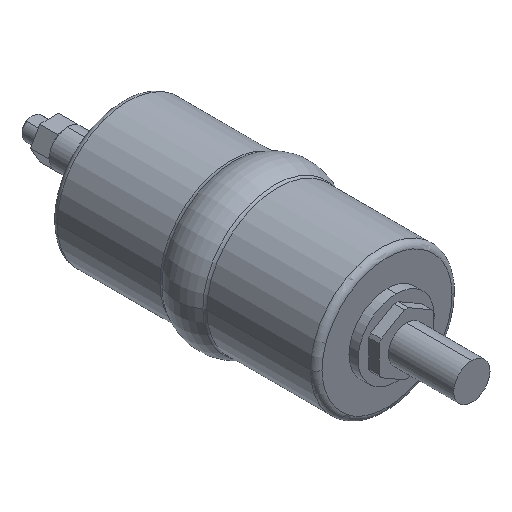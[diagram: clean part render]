
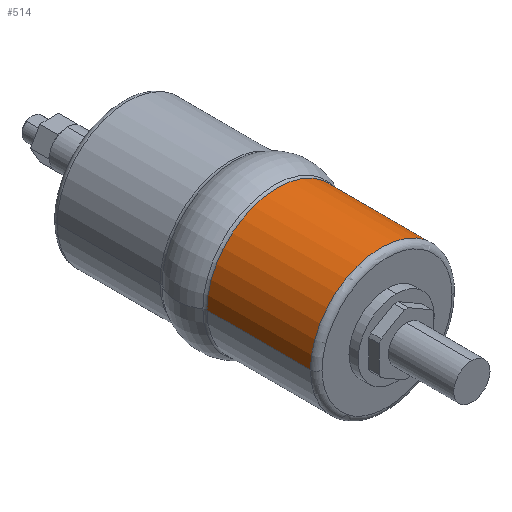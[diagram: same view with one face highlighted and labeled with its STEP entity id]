
A CAD part, isometric view. The second image highlights one B-rep face of the part: STEP entity #514.
In plain terms, the highlighted cylindrical face has radius 39 mm (diameter 78 mm), a partial arc.
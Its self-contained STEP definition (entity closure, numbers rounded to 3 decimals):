
#164 = EDGE_CURVE ( 'NONE', #3438, #3279, #1366, .T. ) ;
#388 = FACE_OUTER_BOUND ( 'NONE', #3077, .T. ) ;
#392 = ORIENTED_EDGE ( 'NONE', *, *, #1461, .T. ) ;
#453 = VECTOR ( 'NONE', #2688, 1000. ) ;
#470 = CYLINDRICAL_SURFACE ( 'NONE', #693, 39. ) ;
#514 = ADVANCED_FACE ( 'NONE', ( #388 ), #470, .T. ) ;
#528 = CARTESIAN_POINT ( 'NONE',  ( 39., -85.861, 0. ) ) ;
#611 = DIRECTION ( 'NONE',  ( 0., -1., 0. ) ) ;
#693 = AXIS2_PLACEMENT_3D ( 'NONE', #3480, #3749, #3446 ) ;
#901 = CARTESIAN_POINT ( 'NONE',  ( -39., -118.553, 0. ) ) ;
#930 = ORIENTED_EDGE ( 'NONE', *, *, #3843, .T. ) ;
#943 = CARTESIAN_POINT ( 'NONE',  ( 39., -142.95, 0. ) ) ;
#1230 = ORIENTED_EDGE ( 'NONE', *, *, #1857, .T. ) ;
#1366 = LINE ( 'NONE', #2781, #453 ) ;
#1461 = EDGE_CURVE ( 'NONE', #1482, #3279, #2660, .T. ) ;
#1482 = VERTEX_POINT ( 'NONE', #2627 ) ;
#1763 = AXIS2_PLACEMENT_3D ( 'NONE', #3089, #3068, #3027 ) ;
#1857 = EDGE_CURVE ( 'NONE', #3438, #3265, #3469, .T. ) ;
#2254 = DIRECTION ( 'NONE',  ( 1., 0., 0. ) ) ;
#2270 = DIRECTION ( 'NONE',  ( 0., 1., 0. ) ) ;
#2286 = CARTESIAN_POINT ( 'NONE',  ( 0., -142.95, 0. ) ) ;
#2570 = VECTOR ( 'NONE', #611, 1000. ) ;
#2627 = CARTESIAN_POINT ( 'NONE',  ( -39., -142.95, 0. ) ) ;
#2660 = CIRCLE ( 'NONE', #2901, 39. ) ;
#2688 = DIRECTION ( 'NONE',  ( 0., -1., 0. ) ) ;
#2781 = CARTESIAN_POINT ( 'NONE',  ( 39., -118.553, 0. ) ) ;
#2901 = AXIS2_PLACEMENT_3D ( 'NONE', #2286, #2270, #2254 ) ;
#3027 = DIRECTION ( 'NONE',  ( 1., 0., 0. ) ) ;
#3068 = DIRECTION ( 'NONE',  ( 0., -1., 0. ) ) ;
#3077 = EDGE_LOOP ( 'NONE', ( #1230, #930, #392, #3127 ) ) ;
#3089 = CARTESIAN_POINT ( 'NONE',  ( 0., -85.861, 0. ) ) ;
#3127 = ORIENTED_EDGE ( 'NONE', *, *, #164, .F. ) ;
#3144 = CARTESIAN_POINT ( 'NONE',  ( -39., -85.861, 0. ) ) ;
#3265 = VERTEX_POINT ( 'NONE', #3144 ) ;
#3279 = VERTEX_POINT ( 'NONE', #943 ) ;
#3377 = LINE ( 'NONE', #901, #2570 ) ;
#3438 = VERTEX_POINT ( 'NONE', #528 ) ;
#3446 = DIRECTION ( 'NONE',  ( 1., 0., 0. ) ) ;
#3469 = CIRCLE ( 'NONE', #1763, 39. ) ;
#3480 = CARTESIAN_POINT ( 'NONE',  ( 0., -118.553, 0. ) ) ;
#3749 = DIRECTION ( 'NONE',  ( 0., -1., 0. ) ) ;
#3843 = EDGE_CURVE ( 'NONE', #3265, #1482, #3377, .T. ) ;
